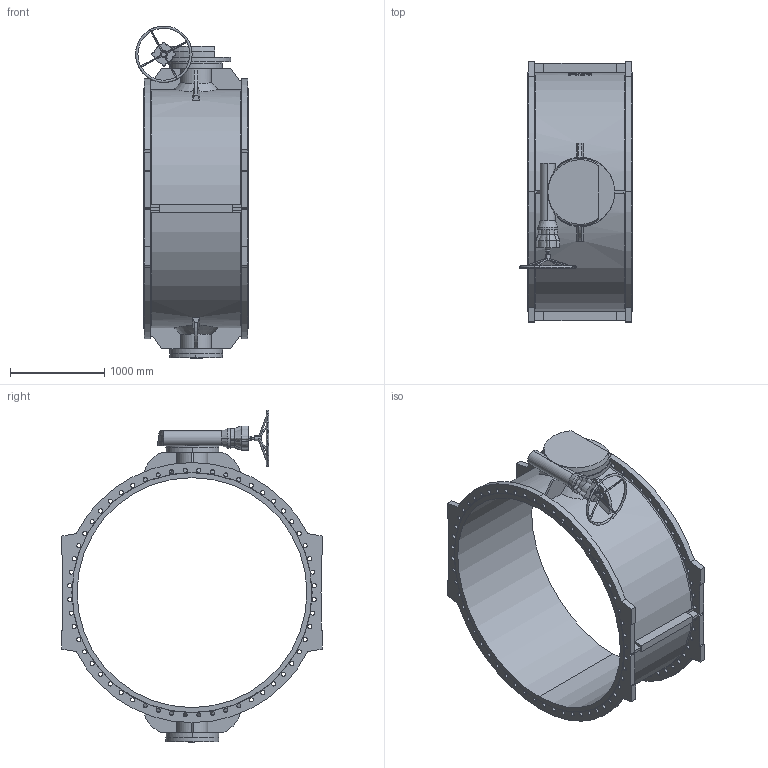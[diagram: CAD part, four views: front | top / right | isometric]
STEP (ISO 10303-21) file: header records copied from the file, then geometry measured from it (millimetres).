
FILE_DESCRIPTION (( 'STEP AP203' ), '1' );
FILE_NAME ('O_756_100_DN2400_0X_REV01.step', '2021-09-30T08:38:37', ( '' ), ( '' ), 'SwSTEP 2.0', 'SolidWorks 2019', '' );
FILE_SCHEMA (( 'CONFIG_CONTROL_DESIGN' ));
Length unit declared in the file: millimetre
Products named in the file (1): O_756_100_DN2400_0X_REV01
Bounding box: 1197.92 x 2760 x 3523.42 mm (x, y, z)
Volume: 701657974.4 mm3; surface area: 27006024.5 mm2
Topology: 1 solids, 1 shells, 587 faces, 1660 edges, 1084 vertices
Faces by surface type: cylinder 328, plane 189, bspline 32, cone 22, torus 16
Entity records: 28106 total; most frequent: CARTESIAN_POINT 12141, ORIENTED_EDGE 3320, DIRECTION 3287, EDGE_CURVE 1660, AXIS2_PLACEMENT_3D 1248, VERTEX_POINT 1084, EDGE_LOOP 830, LINE 791
